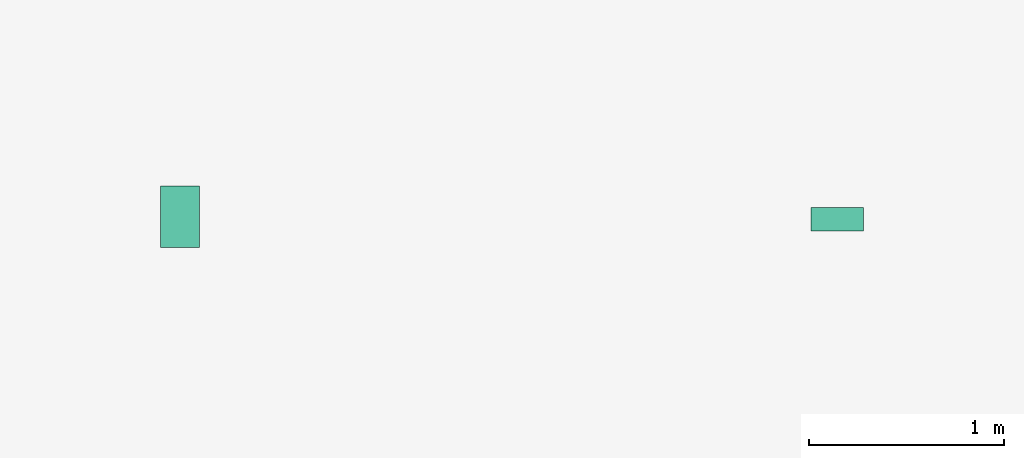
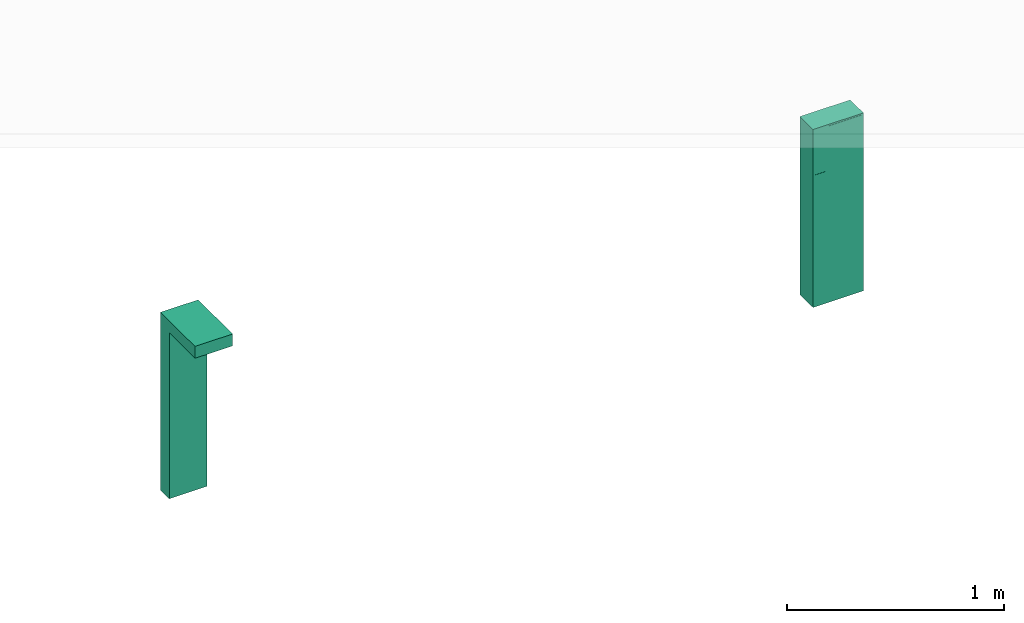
# One storey, part 27 of 197: 2 flow terminals.
"""IFC2X3 building model written with IfcOpenShell, lengths in metres."""

from ifc_helpers import new_model, entity, si_unit, converted_unit, direction, frame, origin, place, context, subcontext, project, spatial, faceted_brep, source, transform, mapped, material, material_list, type_object, type_shapes, element, save


model = new_model("IFC2X3")

# Units and contexts
model_context = context("Model", 3, precision=1e-05, world=origin(), true_north=direction((6.123031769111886e-17, 1.0)))
body_context = subcontext(model_context, "Body", "Model", "MODEL_VIEW")
ifc_project = project(units=[si_unit("LENGTHUNIT", "METRE"), converted_unit("PLANEANGLEUNIT", "DEGREE", entity("IfcPlaneAngleMeasure", 0.017453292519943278), si_unit("PLANEANGLEUNIT", "RADIAN"), dimensions=[0, 0, 0, 0, 0, 0, 0]), si_unit("AREAUNIT", "SQUARE_METRE")], contexts=[model_context])

# Site, building, storey
site_placement = place(None, origin())
site = spatial("IfcSite", under=ifc_project, at=site_placement, Name="Default", CompositionType="ELEMENT")
building_placement = place(site_placement, origin())
building = spatial("IfcBuilding", under=site, at=building_placement, CompositionType="ELEMENT")
storey_placement = place(building_placement, origin())
storey = spatial("IfcBuildingStorey", under=building, at=storey_placement, Name="Niveau 0", CompositionType="ELEMENT", Elevation=0.0)

# Flow terminals
ifc_material_1 = material(Name="A-PLASTIQUE GRIS")
ifc_material_2 = material(Name="Verre")
ifc_material_list_1 = material_list([ifc_material_1, ifc_material_2])
light_fixture_type_1 = type_object("IfcLightFixtureType", Name="Luminaire extérieur-borne en L:EXTERIEUR-Borne en L", PredefinedType="NOTDEFINED", material=ifc_material_list_1)
shared_shape_1 = source(origin(), body_context, "Body", "Brep", [
    faceted_brep([(0.1, -0.0800000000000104, 0.0), (0.1, 0.0, 0.0), (0.1, 0.0, 1.0), (0.1, -0.31700000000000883, 1.0), (0.1, -0.3170000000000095, 0.933278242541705), (0.1, -0.08000000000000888, 0.9332782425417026), (-0.1, -0.31700000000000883, 1.0), (-0.1, 0.0, 1.0), (-0.1, 0.0, 0.0), (-0.1, -0.0800000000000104, 0.0), (-0.1, -0.08000000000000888, 0.9332782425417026), (-0.1, -0.3170000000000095, 0.933278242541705), (0.08799038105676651, -0.2995000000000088, 0.9332782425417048), (0.08948888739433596, -0.2958822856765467, 0.9332782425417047), (0.08560660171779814, -0.30260660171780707, 0.9332782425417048), (0.08999999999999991, -0.29200000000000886, 0.9332782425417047), (0.08999999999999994, -0.10500000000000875, 0.9332782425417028), (0.08249999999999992, -0.30499038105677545, 0.9332782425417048), (0.07888228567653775, -0.3064888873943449, 0.9332782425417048), (0.07499999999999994, -0.3070000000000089, 0.9332782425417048), (-0.07500000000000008, -0.3070000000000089, 0.9332782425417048), (-0.07888228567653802, -0.3064888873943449, 0.9332782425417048), (-0.0825000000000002, -0.30499038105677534, 0.9332782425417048), (-0.08560660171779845, -0.3026066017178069, 0.9332782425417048), (-0.08799038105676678, -0.29950000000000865, 0.9332782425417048), (-0.08948888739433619, -0.2958822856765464, 0.9332782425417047), (-0.09000000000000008, -0.29200000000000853, 0.9332782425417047), (-0.09000000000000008, -0.10500000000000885, 0.9332782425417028), (-0.0894888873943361, -0.10111771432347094, 0.9332782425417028), (-0.08799038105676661, -0.09750000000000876, 0.9332782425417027), (-0.08560660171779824, -0.09439339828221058, 0.9332782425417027), (-0.08249999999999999, -0.09200961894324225, 0.9332782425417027), (-0.07888228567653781, -0.09051111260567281, 0.9332782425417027), (-0.07500000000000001, -0.09000000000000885, 0.9332782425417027), (0.08948888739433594, -0.10111771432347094, 0.9332782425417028), (0.08799038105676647, -0.0975000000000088, 0.9332782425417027), (0.08560660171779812, -0.09439339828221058, 0.9332782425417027), (0.08249999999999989, -0.09200961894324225, 0.9332782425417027), (0.07888228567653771, -0.09051111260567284, 0.9332782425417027), (0.07500000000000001, -0.09000000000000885, 0.9332782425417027), (0.08799038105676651, -0.09750000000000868, 0.9532782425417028), (0.08948888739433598, -0.10111771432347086, 0.9532782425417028), (0.08999999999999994, -0.10500000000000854, 0.9532782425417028), (0.08999999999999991, -0.29200000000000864, 0.9532782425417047), (0.08948888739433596, -0.29588228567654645, 0.9532782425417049), (0.08799038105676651, -0.29950000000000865, 0.9532782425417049), (0.08560660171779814, -0.30260660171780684, 0.9532782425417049), (0.08249999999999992, -0.30499038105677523, 0.9532782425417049), (0.07888228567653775, -0.30648888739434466, 0.9532782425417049), (0.07500000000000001, -0.30700000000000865, 0.953278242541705), (-0.07500000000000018, -0.30700000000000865, 0.953278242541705), (-0.078882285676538, -0.30648888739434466, 0.9532782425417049), (-0.08250000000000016, -0.3049903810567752, 0.9532782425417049), (-0.08560660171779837, -0.3026066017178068, 0.9532782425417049), (-0.08799038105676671, -0.29950000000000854, 0.9532782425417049), (-0.08948888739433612, -0.29588228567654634, 0.9532782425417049), (-0.09000000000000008, -0.29200000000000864, 0.9532782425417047), (-0.09000000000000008, -0.10500000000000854, 0.9532782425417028), (-0.08948888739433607, -0.10111771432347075, 0.9532782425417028), (-0.08799038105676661, -0.09750000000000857, 0.9532782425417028), (-0.08560660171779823, -0.09439339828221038, 0.9532782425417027), (-0.08249999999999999, -0.09200961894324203, 0.9532782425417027), (-0.0788822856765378, -0.0905111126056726, 0.9532782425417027), (-0.07500000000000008, -0.09000000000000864, 0.9532782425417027), (0.07500000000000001, -0.09000000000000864, 0.9532782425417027), (0.07888228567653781, -0.09051111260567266, 0.9532782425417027), (0.08249999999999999, -0.0920096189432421, 0.9532782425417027), (0.08560660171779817, -0.09439339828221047, 0.9532782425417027)], [[[0, 1, 2, 3, 4, 5]], [[6, 7, 8, 9, 10, 11]], [[3, 2, 7, 6]], [[4, 3, 6, 11]], [[4, 12, 13]], [[12, 4, 14]], [[13, 15, 4]], [[4, 15, 16]], [[17, 14, 4]], [[18, 17, 4]], [[19, 18, 4]], [[4, 20, 19]], [[16, 5, 4]], [[20, 4, 11]], [[21, 20, 11]], [[21, 11, 22]], [[23, 22, 11]], [[11, 24, 23]], [[24, 11, 25]], [[26, 25, 11]], [[11, 27, 26]], [[27, 11, 10]], [[28, 27, 10]], [[10, 29, 28]], [[29, 10, 30]], [[31, 30, 10]], [[31, 10, 32]], [[33, 32, 10]], [[33, 10, 5]], [[16, 34, 5]], [[35, 5, 34]], [[5, 35, 36]], [[36, 37, 5]], [[37, 38, 5]], [[38, 39, 5]], [[5, 39, 33]], [[0, 5, 10, 9]], [[1, 0, 9, 8]], [[2, 1, 8, 7]], [[40, 41, 42, 43, 44, 45, 46, 47, 48, 49, 50, 51, 52, 53, 54, 55, 56, 57, 58, 59, 60, 61, 62, 63, 64, 65, 66, 67]], [[33, 39, 64, 63]], [[32, 33, 63, 62]], [[31, 32, 62, 61]], [[31, 61, 60, 30]], [[29, 30, 60, 59]], [[28, 29, 59, 58]], [[58, 57, 27, 28]], [[27, 57, 56, 26]], [[25, 26, 56, 55]], [[24, 25, 55, 54]], [[24, 54, 53, 23]], [[22, 23, 53, 52]], [[21, 22, 52, 51]], [[21, 51, 50, 20]], [[20, 50, 49, 19]], [[18, 19, 49, 48]], [[17, 18, 48, 47]], [[17, 47, 46, 14]], [[15, 13, 44, 43]], [[12, 14, 46, 45]], [[45, 44, 13, 12]], [[15, 43, 42, 16]], [[34, 16, 42, 41]], [[35, 34, 41, 40]], [[35, 40, 67, 36]], [[66, 37, 36, 67]], [[65, 38, 37, 66]], [[39, 38, 65, 64]]]),
    faceted_brep([(0.07500000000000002, -0.30700000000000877, 0.9352782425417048), (0.07888228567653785, -0.30648888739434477, 0.9352782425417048), (0.0825, -0.30499038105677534, 0.9352782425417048), (0.08560660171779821, -0.3026066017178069, 0.9352782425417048), (0.08799038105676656, -0.29950000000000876, 0.9352782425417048), (0.08948888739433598, -0.2958822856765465, 0.9352782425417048), (0.08999999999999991, -0.2920000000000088, 0.9352782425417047), (0.08999999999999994, -0.10500000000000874, 0.9352782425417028), (0.08948888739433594, -0.10111771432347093, 0.9352782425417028), (0.08799038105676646, -0.09750000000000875, 0.9352782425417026), (0.08560660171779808, -0.09439339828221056, 0.9352782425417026), (0.08249999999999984, -0.09200961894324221, 0.9352782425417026), (0.07888228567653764, -0.0905111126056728, 0.9352782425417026), (0.07499999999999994, -0.09000000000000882, 0.9352782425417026), (-0.07500000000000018, -0.09000000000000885, 0.9352782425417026), (-0.078882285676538, -0.09051111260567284, 0.9352782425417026), (-0.08250000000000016, -0.09200961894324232, 0.9352782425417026), (-0.08560660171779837, -0.0943933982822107, 0.9352782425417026), (-0.08799038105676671, -0.09750000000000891, 0.9352782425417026), (-0.08948888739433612, -0.10111771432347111, 0.9352782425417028), (-0.09000000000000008, -0.10500000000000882, 0.9352782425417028), (-0.09000000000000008, -0.29200000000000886, 0.9352782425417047), (-0.0894888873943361, -0.2958822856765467, 0.9352782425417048), (-0.08799038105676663, -0.29950000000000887, 0.9352782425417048), (-0.08560660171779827, -0.30260660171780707, 0.9352782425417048), (-0.08250000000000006, -0.3049903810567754, 0.9352782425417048), (-0.07888228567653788, -0.3064888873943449, 0.9352782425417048), (-0.07500000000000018, -0.3070000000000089, 0.9352782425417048), (0.07499999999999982, -0.09000000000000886, 0.9332782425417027), (0.07888228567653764, -0.09051111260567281, 0.9332782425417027), (0.08249999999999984, -0.09200961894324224, 0.9332782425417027), (0.08560660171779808, -0.09439339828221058, 0.9332782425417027), (0.08799038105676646, -0.09750000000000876, 0.9332782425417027), (0.08948888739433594, -0.10111771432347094, 0.9332782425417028), (0.08999999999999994, -0.10500000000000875, 0.9332782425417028), (0.08999999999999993, -0.29200000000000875, 0.9332782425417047), (0.08948888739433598, -0.29588228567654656, 0.9332782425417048), (0.08799038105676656, -0.29950000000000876, 0.9332782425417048), (0.08560660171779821, -0.302606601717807, 0.9332782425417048), (0.0825, -0.30499038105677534, 0.9332782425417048), (0.07888228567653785, -0.30648888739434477, 0.9332782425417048), (0.07500000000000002, -0.3070000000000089, 0.9332782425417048), (-0.07500000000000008, -0.30700000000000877, 0.9332782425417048), (-0.07888228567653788, -0.3064888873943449, 0.9332782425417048), (-0.08250000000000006, -0.3049903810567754, 0.9332782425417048), (-0.08560660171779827, -0.30260660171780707, 0.9332782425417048), (-0.08799038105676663, -0.2995000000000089, 0.9332782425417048), (-0.0894888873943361, -0.29588228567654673, 0.9332782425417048), (-0.09000000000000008, -0.292000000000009, 0.9332782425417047), (-0.09000000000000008, -0.10500000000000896, 0.9332782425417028), (-0.08948888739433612, -0.10111771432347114, 0.9332782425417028), (-0.08799038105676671, -0.09750000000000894, 0.9332782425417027), (-0.08560660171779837, -0.09439339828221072, 0.9332782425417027), (-0.08250000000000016, -0.09200961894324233, 0.9332782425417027), (-0.078882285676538, -0.09051111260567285, 0.9332782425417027), (-0.07500000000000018, -0.09000000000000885, 0.9332782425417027)], [[[0, 1, 2, 3, 4, 5, 6, 7, 8, 9, 10, 11, 12, 13, 14, 15, 16, 17, 18, 19, 20, 21, 22, 23, 24, 25, 26, 27]], [[28, 29, 30, 31, 32, 33, 34, 35, 36, 37, 38, 39, 40, 41, 42, 43, 44, 45, 46, 47, 48, 49, 50, 51, 52, 53, 54, 55]], [[50, 49, 20, 19]], [[51, 50, 19, 18]], [[52, 51, 18, 17]], [[53, 52, 17, 16]], [[54, 53, 16, 15]], [[55, 54, 15, 14]], [[28, 55, 14, 13]], [[29, 28, 13, 12]], [[30, 29, 12, 11]], [[31, 30, 11, 10]], [[32, 31, 10, 9]], [[33, 32, 9, 8]], [[34, 33, 8, 7]], [[35, 34, 7, 6]], [[36, 35, 6, 5]], [[37, 36, 5, 4]], [[38, 37, 4, 3]], [[39, 38, 3, 2]], [[40, 39, 2, 1]], [[41, 40, 1, 0]], [[42, 41, 0, 27]], [[43, 42, 27, 26]], [[44, 43, 26, 25]], [[45, 44, 25, 24]], [[46, 45, 24, 23]], [[47, 46, 23, 22]], [[48, 47, 22, 21]], [[49, 48, 21, 20]]]),
])
type_shapes(light_fixture_type_1, [shared_shape_1])
flow_terminal_1_placement = place(storey_placement, frame((-510.6367105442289, 56.204355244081, 0.0)))
element("IfcFlowTerminal", 1, at=flow_terminal_1_placement, inside=storey, type_object=light_fixture_type_1, material=ifc_material_list_1, Name="Luminaire extérieur-borne en L:EXTERIEUR-Borne en L", ObjectType="Luminaire extérieur-borne en L:EXTERIEUR-Borne en L", context=body_context, shape_type="MappedRepresentation", body=[
    mapped(shared_shape_1, transform((0.0, 0.0, 0.0), scale=1.0)),
])
ifc_material_3 = material(Name="BEGA_lighting_medium_matt")
ifc_material_4 = material(Name="BEGA_reflector")
ifc_material_5 = material(Name="BEGA_glass_clear")
ifc_material_6 = material(Name="BEGA_finishes_graphite_matt")
ifc_material_list_2 = material_list([ifc_material_3, ifc_material_4, ifc_material_5, ifc_material_6])
light_fixture_type_2 = type_object("IfcLightFixtureType", Name="Luminaire extérieur-borne rectangulaire:EXTERIEUR-borne rectangulaire", PredefinedType="NOTDEFINED", material=ifc_material_list_2)
shared_shape_2 = source(origin(), body_context, "Body", "Brep", [
    faceted_brep([(0.09750879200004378, 0.009549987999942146, 0.9485104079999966), (0.09750879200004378, -0.016450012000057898, 0.9485104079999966), (0.09750879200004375, -0.016450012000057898, 0.9460603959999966), (0.09750879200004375, 0.009549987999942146, 0.9460603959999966), (-0.09749120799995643, 0.009549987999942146, 0.9485104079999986), (-0.09749120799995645, 0.009549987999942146, 0.9460603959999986), (-0.09749120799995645, -0.016450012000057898, 0.9460603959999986), (-0.09749120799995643, -0.016450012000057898, 0.9485104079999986)], [[[0, 1, 2, 3]], [[4, 5, 6, 7]], [[1, 0, 4, 7]], [[2, 1, 7, 6]], [[3, 2, 6, 5]], [[0, 3, 5, 4]]]),
    faceted_brep([(0.09750879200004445, -0.0008500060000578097, 0.9389861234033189), (0.09750879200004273, -0.05235000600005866, 0.7705372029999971), (0.09750879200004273, -0.051684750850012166, 0.7710030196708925), (0.09750879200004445, -0.0003500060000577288, 0.9389114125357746), (0.09750879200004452, -0.000350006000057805, 0.9447720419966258), (0.09750879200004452, -0.0008500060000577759, 0.9454861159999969), (-0.09749120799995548, -0.0008500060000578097, 0.9389861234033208), (-0.09749120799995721, -0.05235000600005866, 0.770537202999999), (-0.09749120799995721, -0.05168475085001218, 0.7710030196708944), (-0.09749120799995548, -0.0003500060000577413, 0.9389114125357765), (-0.0974912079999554, -0.00035000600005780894, 0.9447720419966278), (-0.0974912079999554, -0.0008500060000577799, 0.9454861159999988)], [[[0, 1, 2, 3, 4, 5]], [[1, 0, 6, 7]], [[2, 1, 7, 8]], [[3, 2, 8, 9]], [[4, 3, 9, 10]], [[5, 4, 10, 11]], [[0, 5, 11, 6]], [[6, 11, 10, 9, 8, 7]]]),
    faceted_brep([(0.09750879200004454, -0.017447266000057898, 0.9463717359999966), (0.09750879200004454, -0.018612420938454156, 0.9465771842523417), (0.09750879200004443, -0.05185000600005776, 0.937671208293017), (0.09750879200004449, -0.05185000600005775, 0.9413401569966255), (0.09750879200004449, -0.05234975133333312, 0.9420542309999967), (0.09750879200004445, -0.052349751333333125, 0.9381912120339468), (0.09750879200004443, -0.05199618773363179, 0.9374763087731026), (0.09750879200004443, -0.0512134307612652, 0.9373233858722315), (-0.09749120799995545, -0.05234975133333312, 0.9420542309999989), (-0.09749120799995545, -0.05185000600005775, 0.9413401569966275), (-0.0974912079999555, -0.05185000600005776, 0.937671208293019), (-0.09749120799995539, -0.018612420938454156, 0.9465771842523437), (-0.09749120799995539, -0.017447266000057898, 0.9463717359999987), (-0.0974912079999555, -0.05121343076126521, 0.9373233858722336), (-0.0974912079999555, -0.05199618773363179, 0.9374763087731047), (-0.09749120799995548, -0.05234975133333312, 0.9381912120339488), (-0.08921198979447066, -0.052349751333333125, 0.9381912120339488), (-0.08185808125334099, -0.052349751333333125, 0.9381912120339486), (-0.07404151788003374, -0.052349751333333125, 0.9381912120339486), (-0.06622495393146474, -0.052349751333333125, 0.9381912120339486), (-0.05840838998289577, -0.05234975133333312, 0.9381912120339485), (-0.05059182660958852, -0.052349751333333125, 0.9381912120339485), (-0.04277526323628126, -0.052349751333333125, 0.9381912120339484), (-0.03495869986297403, -0.052349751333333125, 0.9381912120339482), (-0.02667948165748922, -0.052349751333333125, 0.9381912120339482), (-0.018400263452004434, -0.052349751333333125, 0.938191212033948), (-0.010121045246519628, -0.052349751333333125, 0.938191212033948), (-0.0018418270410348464, -0.052349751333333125, 0.938191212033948), (0.00643739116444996, -0.052349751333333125, 0.9381912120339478), (0.01471660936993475, -0.05234975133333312, 0.9381912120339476), (0.022995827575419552, -0.052349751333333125, 0.9381912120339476), (0.031275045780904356, -0.052349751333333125, 0.9381912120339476), (0.03955426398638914, -0.052349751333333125, 0.9381912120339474), (0.04783348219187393, -0.052349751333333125, 0.9381912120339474), (0.056112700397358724, -0.052349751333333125, 0.9381912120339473), (0.06439191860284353, -0.052349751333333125, 0.9381912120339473), (0.07267113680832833, -0.052349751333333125, 0.9381912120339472), (0.08095035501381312, -0.052349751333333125, 0.938191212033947), (0.08922957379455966, -0.05234975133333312, 0.9381912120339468), (-0.08921199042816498, -0.051213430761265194, 0.9373233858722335), (-0.0853037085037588, -0.051213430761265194, 0.9373233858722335), (-0.08725784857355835, -0.05199618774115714, 0.9374763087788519), (0.09129937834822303, -0.051993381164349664, 0.9374741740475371), (-0.06933745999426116, -0.05197413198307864, 0.9374599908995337), (-0.07616308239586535, -0.05197320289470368, 0.9374593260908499), (-0.01827245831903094, -0.051213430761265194, 0.9373233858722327), (-0.015225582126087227, -0.05199995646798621, 0.937479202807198), (-0.022539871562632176, -0.052059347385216, 0.9375292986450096), (0.08508996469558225, -0.05199618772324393, 0.9374763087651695), (-0.0335068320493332, -0.05196150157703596, 0.9374511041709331), (-0.03655370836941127, -0.051213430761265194, 0.9373233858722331), (-0.030459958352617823, -0.051213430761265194, 0.9373233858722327), (0.005622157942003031, -0.051976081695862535, 0.9374613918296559), (-0.00035113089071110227, -0.052006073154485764, 0.937483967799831), (8.791731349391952e-06, -0.051213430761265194, 0.9373233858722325), (0.03955426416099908, -0.0512134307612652, 0.9373233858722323), (0.047833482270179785, -0.0512134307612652, 0.9373233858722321), (0.043693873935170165, -0.051996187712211, 0.9374763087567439), (0.06439191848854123, -0.0512134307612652, 0.937323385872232), (0.060252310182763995, -0.05199618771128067, 0.9374763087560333), (0.05611270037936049, -0.0512134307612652, 0.937323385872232), (-0.06702245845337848, -0.051213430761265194, 0.9373233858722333), (-0.06286235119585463, -0.052031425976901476, 0.9375046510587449), (-0.04516140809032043, -0.05196176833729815, 0.9374512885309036), (-0.05178808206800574, -0.05195816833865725, 0.9374488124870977), (-0.04874120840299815, -0.0512134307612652, 0.9373233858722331), (-0.008820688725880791, -0.05194958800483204, 0.9374430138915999), (-0.08172461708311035, -0.05189381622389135, 0.9374086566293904), (-0.07920995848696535, -0.051213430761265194, 0.9373233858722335), (0.033743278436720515, -0.05199618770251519, 0.9374763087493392), (0.02736676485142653, -0.05199618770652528, 0.9374763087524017), (0.03127504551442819, -0.051213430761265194, 0.9373233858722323), (0.05197309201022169, -0.051996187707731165, 0.9374763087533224), (0.06853152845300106, -0.051996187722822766, 0.937476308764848), (0.07267113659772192, -0.0512134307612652, 0.9373233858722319), (0.07681074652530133, -0.05199618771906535, 0.9374763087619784), (0.08095035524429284, -0.0512134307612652, 0.9373233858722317), (0.08922957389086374, -0.0512134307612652, 0.9373233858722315), (0.0117336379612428, -0.05196542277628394, 0.9374538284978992), (0.015641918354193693, -0.051213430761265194, 0.9373233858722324), (0.018472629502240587, -0.0520246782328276, 0.9374989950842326), (0.007825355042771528, -0.051213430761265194, 0.9373233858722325), (-0.07311620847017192, -0.051213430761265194, 0.9373233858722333), (-0.06092870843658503, -0.051213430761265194, 0.9373233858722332), (-0.05483495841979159, -0.051213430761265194, 0.9373233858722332), (-0.05737656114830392, -0.05189388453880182, 0.9374086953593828), (-0.03933420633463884, -0.051910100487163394, 0.9374181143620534), (-0.042647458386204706, -0.051213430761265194, 0.9373233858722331), (-0.02436620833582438, -0.051213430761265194, 0.9373233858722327), (-0.02794014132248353, -0.05189277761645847, 0.9374080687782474), (-0.012178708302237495, -0.051213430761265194, 0.9373233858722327), (0.023458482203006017, -0.051213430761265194, 0.9373233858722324), (-0.006084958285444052, -0.051213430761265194, 0.9373233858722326)], [[[0, 1, 2, 3, 4, 5, 6, 7]], [[8, 9, 10, 11, 12, 13, 14, 15]], [[4, 3, 9, 8]], [[4, 8, 15, 16, 17, 18, 19, 20, 21, 22, 23, 24, 25, 26, 27, 28, 29, 30, 31, 32, 33, 34, 35, 36, 37, 38, 5]], [[39, 40, 41, 14]], [[5, 38, 42]], [[7, 6, 42]], [[43, 18, 44]], [[45, 46, 47]], [[16, 15, 14]], [[48, 42, 38]], [[49, 24, 23]], [[49, 50, 51]], [[52, 53, 54]], [[55, 56, 57]], [[58, 59, 60]], [[43, 61, 62]], [[63, 64, 65]], [[27, 26, 66]], [[64, 63, 21]], [[47, 25, 24]], [[14, 13, 39]], [[44, 67, 68]], [[69, 70, 71, 55]], [[35, 34, 59]], [[72, 34, 33]], [[57, 32, 69]], [[70, 69, 31]], [[35, 73, 36]], [[37, 48, 38]], [[74, 73, 58]], [[48, 75, 76, 77]], [[37, 36, 75]], [[68, 67, 40]], [[78, 79, 80]], [[52, 81, 78]], [[28, 52, 78]], [[16, 41, 17]], [[43, 44, 82]], [[14, 41, 16]], [[68, 82, 44]], [[43, 19, 18]], [[17, 41, 67]], [[17, 44, 18]], [[62, 61, 83]], [[84, 64, 85]], [[85, 20, 62]], [[21, 63, 22]], [[19, 43, 62]], [[65, 64, 84]], [[20, 64, 21]], [[22, 63, 86]], [[63, 65, 87]], [[86, 50, 49]], [[83, 84, 85]], [[20, 19, 62]], [[88, 47, 89]], [[51, 89, 49]], [[23, 22, 86]], [[46, 45, 90]], [[86, 49, 23]], [[86, 87, 50]], [[87, 86, 63]], [[43, 82, 61]], [[79, 78, 81]], [[20, 85, 64]], [[83, 85, 62]], [[17, 67, 44]], [[40, 67, 41]], [[70, 80, 91]], [[28, 78, 29]], [[31, 30, 70]], [[29, 78, 80]], [[30, 29, 80]], [[80, 79, 91]], [[70, 91, 71]], [[69, 55, 57]], [[72, 56, 60]], [[80, 70, 30]], [[57, 33, 32]], [[69, 32, 31]], [[53, 28, 27]], [[54, 81, 52]], [[76, 75, 73, 74]], [[73, 75, 36]], [[75, 48, 37]], [[48, 77, 42]], [[72, 57, 56]], [[72, 60, 59]], [[57, 72, 33]], [[72, 59, 34]], [[59, 58, 73]], [[73, 35, 59]], [[7, 42, 77]], [[42, 6, 5]], [[89, 24, 49]], [[47, 88, 45]], [[26, 46, 66]], [[66, 46, 90]], [[47, 46, 25]], [[26, 25, 46]], [[66, 90, 92]], [[92, 53, 66]], [[88, 89, 51]], [[53, 92, 54]], [[24, 89, 47]], [[28, 53, 52]], [[66, 53, 27]], [[0, 7, 77, 76, 74, 58, 60, 56, 55, 71, 91, 79, 81, 54, 92, 90, 45, 88, 51, 50, 87, 65, 84, 83, 61, 82, 68, 40, 39, 13, 12]], [[1, 0, 12, 11]], [[2, 1, 11, 10]], [[3, 2, 10, 9]]]),
    faceted_brep([(-0.09749120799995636, -0.04931044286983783, 0.9387972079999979), (0.09750879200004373, -0.04931044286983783, 0.9387972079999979), (0.09750879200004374, -0.04931044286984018, 0.7689913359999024), (-0.09749120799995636, -0.04931044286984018, 0.7689913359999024), (-0.09749120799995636, -0.06075000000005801, 0.938797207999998), (-0.09749120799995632, -0.06075000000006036, 0.7689913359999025), (0.09750879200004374, -0.06075000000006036, 0.7689913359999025), (0.09750879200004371, -0.06075000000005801, 0.938797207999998)], [[[0, 1, 2, 3]], [[4, 5, 6, 7]], [[0, 3, 5, 4]], [[3, 2, 6, 5]], [[2, 1, 7, 6]], [[1, 0, 4, 7]]]),
    faceted_brep([(-0.12510009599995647, -0.049310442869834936, 0.991599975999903), (0.12509570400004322, -0.049310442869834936, 0.991599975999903), (0.12509570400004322, -0.0493104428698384, 0.7414044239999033), (-0.1251000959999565, -0.0493104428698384, 0.7414044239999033), (-0.09749120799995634, -0.049310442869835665, 0.9387972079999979), (-0.09749120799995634, -0.04931044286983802, 0.7689913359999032), (0.09750879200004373, -0.04931044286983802, 0.7689913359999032), (0.09750879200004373, -0.049310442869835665, 0.9387972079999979), (-0.12510009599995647, -0.06075000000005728, 0.9915999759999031), (-0.1251000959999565, -0.06075000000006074, 0.7414044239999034), (0.12509570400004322, -0.06075000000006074, 0.7414044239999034), (0.12509570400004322, -0.06075000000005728, 0.9915999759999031), (-0.09749120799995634, -0.06075000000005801, 0.938797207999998), (0.09750879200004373, -0.06075000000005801, 0.938797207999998), (0.09750879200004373, -0.06075000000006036, 0.7689913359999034), (-0.09749120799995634, -0.06075000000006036, 0.7689913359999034)], [[[0, 1, 2, 3], [4, 5, 6, 7]], [[8, 9, 10, 11], [12, 13, 14, 15]], [[0, 3, 9, 8]], [[3, 2, 10, 9]], [[2, 1, 11, 10]], [[1, 0, 8, 11]], [[4, 7, 13, 12]], [[7, 6, 14, 13]], [[6, 5, 15, 14]], [[5, 4, 12, 15]]]),
    faceted_brep([(0.1340000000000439, 0.060749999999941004, 1.0002081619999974), (-0.13399999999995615, 0.060749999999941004, 1.0002081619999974), (-0.13399999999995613, -0.06075000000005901, 1.0002081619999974), (0.1340000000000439, -0.06075000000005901, 1.0002081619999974), (0.1340000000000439, 0.060749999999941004, 0.0), (0.13400000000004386, -0.06075000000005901, 0.0), (-0.13399999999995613, -0.06075000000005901, 0.0), (-0.13399999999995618, 0.060749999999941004, 0.0), (-0.12549999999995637, -0.06075000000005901, 0.7409999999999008), (-0.12549999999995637, -0.06075000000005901, 0.991999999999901), (0.1255000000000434, -0.06075000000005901, 0.991999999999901), (0.1255000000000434, -0.06075000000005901, 0.7409999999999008), (-0.09749120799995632, 0.010689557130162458, 0.959689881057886), (-0.09749120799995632, 0.010689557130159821, 0.7689913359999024), (0.09750879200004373, 0.010689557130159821, 0.7689913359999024), (0.09750879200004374, 0.010689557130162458, 0.959689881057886), (-0.09749120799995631, -0.04931044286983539, 0.9596898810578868), (-0.09749120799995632, -0.04931044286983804, 0.7689913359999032), (0.09750879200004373, -0.04931044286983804, 0.7689913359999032), (0.09750879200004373, -0.0493104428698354, 0.9596898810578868), (-0.12549999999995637, -0.04931044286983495, 0.9919999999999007), (-0.12549999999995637, -0.04931044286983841, 0.7409999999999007), (0.1255000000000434, -0.04931044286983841, 0.7409999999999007), (0.1255000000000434, -0.04931044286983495, 0.9919999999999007)], [[[0, 1, 2, 3]], [[4, 5, 6, 7]], [[1, 0, 4, 7]], [[2, 1, 7, 6]], [[3, 2, 6, 5], [8, 9, 10, 11]], [[0, 3, 5, 4]], [[12, 13, 14, 15]], [[13, 12, 16, 17]], [[14, 13, 17, 18]], [[15, 14, 18, 19]], [[12, 15, 19, 16]], [[17, 16, 19, 18], [20, 21, 22, 23]], [[21, 20, 9, 8]], [[22, 21, 8, 11]], [[23, 22, 11, 10]], [[20, 23, 10, 9]]], outer=[[True], [True], [True], [True], [True, False], [True], [True], [True], [True], [True], [True], [False, True], [True], [True], [True], [True]]),
])
type_shapes(light_fixture_type_2, [shared_shape_2])
flow_terminal_2_placement = place(storey_placement, frame((-507.2677105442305, 56.03260524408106, 0.0)))
element("IfcFlowTerminal", 2, at=flow_terminal_2_placement, inside=storey, type_object=light_fixture_type_2, material=ifc_material_list_2, Name="Luminaire extérieur-borne rectangulaire:EXTERIEUR-borne rectangulaire", ObjectType="Luminaire extérieur-borne rectangulaire:EXTERIEUR-borne rectangulaire", context=body_context, shape_type="MappedRepresentation", body=[
    mapped(shared_shape_2, transform((0.0, 0.0, 0.0), scale=1.0)),
])

save(model, "model.ifc")
